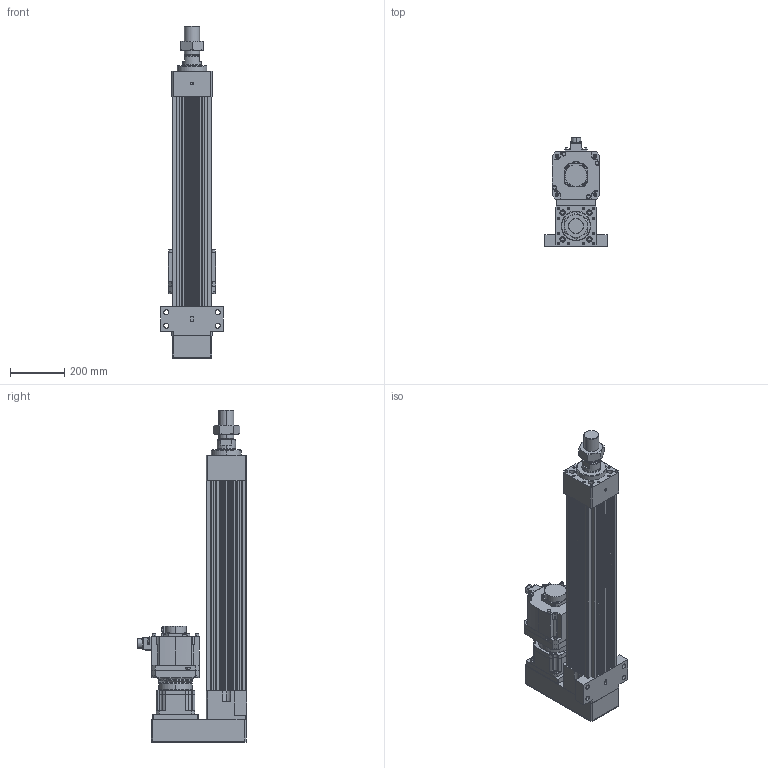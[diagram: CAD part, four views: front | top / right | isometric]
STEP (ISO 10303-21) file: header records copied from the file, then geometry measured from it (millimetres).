
FILE_DESCRIPTION (( 'STEP AP203' ), '1' );
FILE_NAME ('HES150NS(HS)-P500-W035G00-M-FFC.STEP', '2023-01-31T09:50:18', ( 'tms' ), ( '' ), 'SwSTEP 2.0', 'SolidWorks 2013', '' );
FILE_SCHEMA (( 'CONFIG_CONTROL_DESIGN' ));
Length unit declared in the file: millimetre
Products named in the file (9): HES150 ROD M ST500; P1301500001; M56X2.0P; P0403500801; HES150-P500-G142-FFC; HES150NS(HS)-P500-W035G00-M-FFC; HG-SR352; AB142-003[HG-SR352]; AB1421
Assembly tree (8 placements, depth 3):
  HES150NS(HS)-P500-W035G00-M-FFC
    HES150-P500-G142-FFC
    HES150 ROD M ST500
    M56X2.0P
    AB142-003[HG-SR352]
      AB1421
      P1301500001
      P0403500801
    HG-SR352
Bounding box: 230 x 403.85 x 1226 mm (x, y, z)
Volume: 20311638.6 mm3; surface area: 2034987.3 mm2
Topology: 4 solids, 18 shells, 1470 faces, 3831 edges, 2471 vertices
Faces by surface type: cylinder 693, plane 529, cone 166, bspline 76, torus 6
Entity records: 53945 total; most frequent: CARTESIAN_POINT 16549, DIRECTION 7839, ORIENTED_EDGE 7520, EDGE_CURVE 3782, AXIS2_PLACEMENT_3D 2986, VERTEX_POINT 2471, LINE 1867, VECTOR 1867
